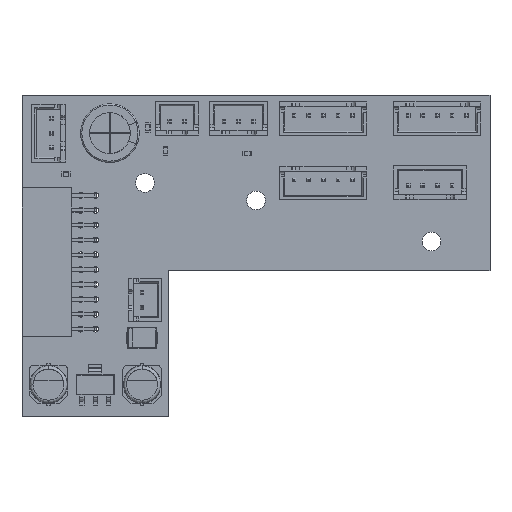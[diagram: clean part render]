
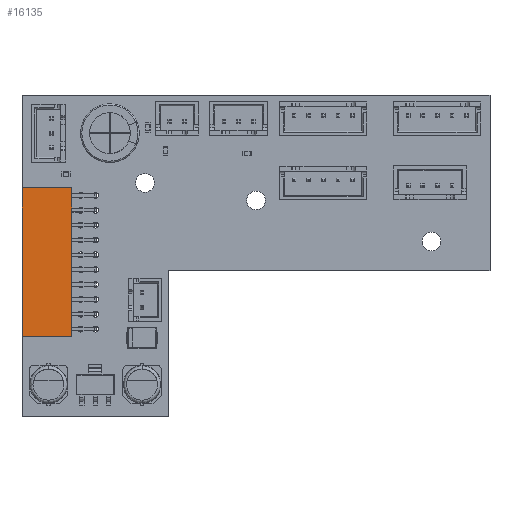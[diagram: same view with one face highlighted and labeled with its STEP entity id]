
A CAD part, top view. The second image highlights one B-rep face of the part: STEP entity #16135.
In plain terms, the highlighted planar face has unit normal (0, 0, 1).
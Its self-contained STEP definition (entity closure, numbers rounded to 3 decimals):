
#16135 = ADVANCED_FACE('',(#16136),#16170,.F.);
#16136 = FACE_BOUND('',#16137,.F.);
#16137 = EDGE_LOOP('',(#16138,#16148,#16156,#16164));
#16138 = ORIENTED_EDGE('',*,*,#16139,.T.);
#16139 = EDGE_CURVE('',#16140,#16142,#16144,.T.);
#16140 = VERTEX_POINT('',#16141);
#16141 = CARTESIAN_POINT('',(-4.06,-24.13,5.08));
#16142 = VERTEX_POINT('',#16143);
#16143 = CARTESIAN_POINT('',(-12.57,-24.13,5.08));
#16144 = LINE('',#16145,#16146);
#16145 = CARTESIAN_POINT('',(-4.06,-24.13,5.08));
#16146 = VECTOR('',#16147,1.);
#16147 = DIRECTION('',(-1.,0.,0.));
#16148 = ORIENTED_EDGE('',*,*,#16149,.T.);
#16149 = EDGE_CURVE('',#16142,#16150,#16152,.T.);
#16150 = VERTEX_POINT('',#16151);
#16151 = CARTESIAN_POINT('',(-12.57,1.27,5.08));
#16152 = LINE('',#16153,#16154);
#16153 = CARTESIAN_POINT('',(-12.57,-24.13,5.08));
#16154 = VECTOR('',#16155,1.);
#16155 = DIRECTION('',(0.,1.,0.));
#16156 = ORIENTED_EDGE('',*,*,#16157,.F.);
#16157 = EDGE_CURVE('',#16158,#16150,#16160,.T.);
#16158 = VERTEX_POINT('',#16159);
#16159 = CARTESIAN_POINT('',(-4.06,1.27,5.08));
#16160 = LINE('',#16161,#16162);
#16161 = CARTESIAN_POINT('',(-4.06,1.27,5.08));
#16162 = VECTOR('',#16163,1.);
#16163 = DIRECTION('',(-1.,0.,0.));
#16164 = ORIENTED_EDGE('',*,*,#16165,.F.);
#16165 = EDGE_CURVE('',#16140,#16158,#16166,.T.);
#16166 = LINE('',#16167,#16168);
#16167 = CARTESIAN_POINT('',(-4.06,-24.13,5.08));
#16168 = VECTOR('',#16169,1.);
#16169 = DIRECTION('',(0.,1.,0.));
#16170 = PLANE('',#16171);
#16171 = AXIS2_PLACEMENT_3D('',#16172,#16173,#16174);
#16172 = CARTESIAN_POINT('',(-4.06,-24.13,5.08));
#16173 = DIRECTION('',(0.,0.,-1.));
#16174 = DIRECTION('',(0.,1.,0.));
